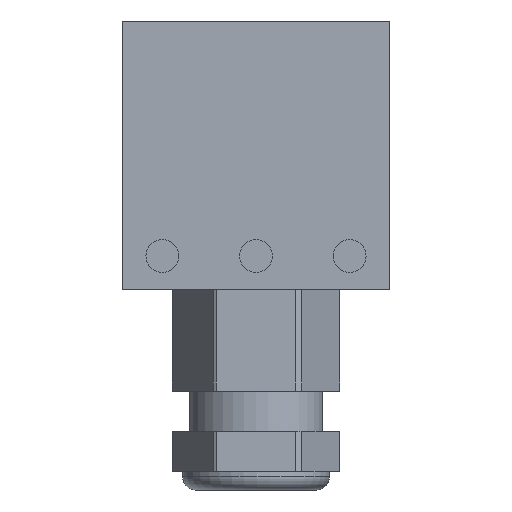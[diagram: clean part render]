
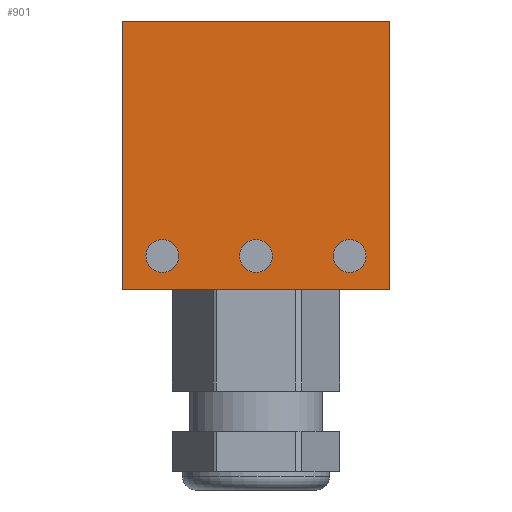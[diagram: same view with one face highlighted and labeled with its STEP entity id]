
A CAD part, left-side view. The second image highlights one B-rep face of the part: STEP entity #901.
In plain terms, the highlighted planar face has unit normal (-1, 0, 0).
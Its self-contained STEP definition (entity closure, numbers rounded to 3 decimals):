
#901 = ADVANCED_FACE( '', ( #1938, #1939, #1940, #1941 ), #1942, .F. );
#1938 = FACE_OUTER_BOUND( '', #3161, .T. );
#1939 = FACE_BOUND( '', #3162, .T. );
#1940 = FACE_BOUND( '', #3163, .T. );
#1941 = FACE_BOUND( '', #3164, .T. );
#1942 = PLANE( '', #3165 );
#3161 = EDGE_LOOP( '', ( #5801, #5802, #5803, #5804 ) );
#3162 = EDGE_LOOP( '', ( #5805 ) );
#3163 = EDGE_LOOP( '', ( #5806 ) );
#3164 = EDGE_LOOP( '', ( #5807 ) );
#3165 = AXIS2_PLACEMENT_3D( '', #5808, #5809, #5810 );
#5801 = ORIENTED_EDGE( '', *, *, #7616, .T. );
#5802 = ORIENTED_EDGE( '', *, *, #6878, .F. );
#5803 = ORIENTED_EDGE( '', *, *, #7630, .T. );
#5804 = ORIENTED_EDGE( '', *, *, #7631, .T. );
#5805 = ORIENTED_EDGE( '', *, *, #7537, .F. );
#5806 = ORIENTED_EDGE( '', *, *, #7281, .F. );
#5807 = ORIENTED_EDGE( '', *, *, #7632, .F. );
#5808 = CARTESIAN_POINT( '', ( -50., 10., 4.8 ) );
#5809 = DIRECTION( '', ( 1., 0., 0. ) );
#5810 = DIRECTION( '', ( 0., 1., 0. ) );
#6878 = EDGE_CURVE( '', #8286, #8288, #8289, .T. );
#7281 = EDGE_CURVE( '', #8914, #8914, #8915, .T. );
#7537 = EDGE_CURVE( '', #9255, #9255, #9256, .T. );
#7616 = EDGE_CURVE( '', #9350, #8288, #9352, .T. );
#7630 = EDGE_CURVE( '', #8286, #9368, #9369, .T. );
#7631 = EDGE_CURVE( '', #9368, #9350, #9370, .T. );
#7632 = EDGE_CURVE( '', #9371, #9371, #9372, .T. );
#8286 = VERTEX_POINT( '', #10261 );
#8288 = VERTEX_POINT( '', #10264 );
#8289 = LINE( '', #10265, #10266 );
#8914 = VERTEX_POINT( '', #11134 );
#8915 = CIRCLE( '', #11135, 1.23 );
#9255 = VERTEX_POINT( '', #11608 );
#9256 = CIRCLE( '', #11609, 1.23 );
#9350 = VERTEX_POINT( '', #11734 );
#9352 = LINE( '', #11737, #11738 );
#9368 = VERTEX_POINT( '', #11758 );
#9369 = LINE( '', #11759, #11760 );
#9370 = LINE( '', #11761, #11762 );
#9371 = VERTEX_POINT( '', #11763 );
#9372 = CIRCLE( '', #11764, 1.23 );
#10261 = CARTESIAN_POINT( '', ( -50., -10., 20. ) );
#10264 = CARTESIAN_POINT( '', ( -50., -10., 0. ) );
#10265 = CARTESIAN_POINT( '', ( -50., -10., 4.8 ) );
#10266 = VECTOR( '', #12261, 1000. );
#11134 = CARTESIAN_POINT( '', ( -50., -7., 1.271 ) );
#11135 = AXIS2_PLACEMENT_3D( '', #12742, #12743, #12744 );
#11608 = CARTESIAN_POINT( '', ( -50., 7., 1.271 ) );
#11609 = AXIS2_PLACEMENT_3D( '', #13006, #13007, #13008 );
#11734 = CARTESIAN_POINT( '', ( -50., 10., 0. ) );
#11737 = CARTESIAN_POINT( '', ( -50., 10., 0. ) );
#11738 = VECTOR( '', #13073, 1000. );
#11758 = CARTESIAN_POINT( '', ( -50., 10., 20. ) );
#11759 = CARTESIAN_POINT( '', ( -50., -10., 20. ) );
#11760 = VECTOR( '', #13081, 1000. );
#11761 = CARTESIAN_POINT( '', ( -50., 10., 4.8 ) );
#11762 = VECTOR( '', #13082, 1000. );
#11763 = CARTESIAN_POINT( '', ( -50., 0., 1.271 ) );
#11764 = AXIS2_PLACEMENT_3D( '', #13083, #13084, #13085 );
#12261 = DIRECTION( '', ( 0., 0., -1. ) );
#12742 = CARTESIAN_POINT( '', ( -50., -7., 2.5 ) );
#12743 = DIRECTION( '', ( -1., 0., 0. ) );
#12744 = DIRECTION( '', ( 0., 0., -1. ) );
#13006 = CARTESIAN_POINT( '', ( -50., 7., 2.5 ) );
#13007 = DIRECTION( '', ( -1., 0., 0. ) );
#13008 = DIRECTION( '', ( 0., 0., -1. ) );
#13073 = DIRECTION( '', ( 0., -1., 0. ) );
#13081 = DIRECTION( '', ( 0., 1., 0. ) );
#13082 = DIRECTION( '', ( 0., 0., -1. ) );
#13083 = CARTESIAN_POINT( '', ( -50., 0., 2.5 ) );
#13084 = DIRECTION( '', ( -1., 0., 0. ) );
#13085 = DIRECTION( '', ( 0., 0., -1. ) );
